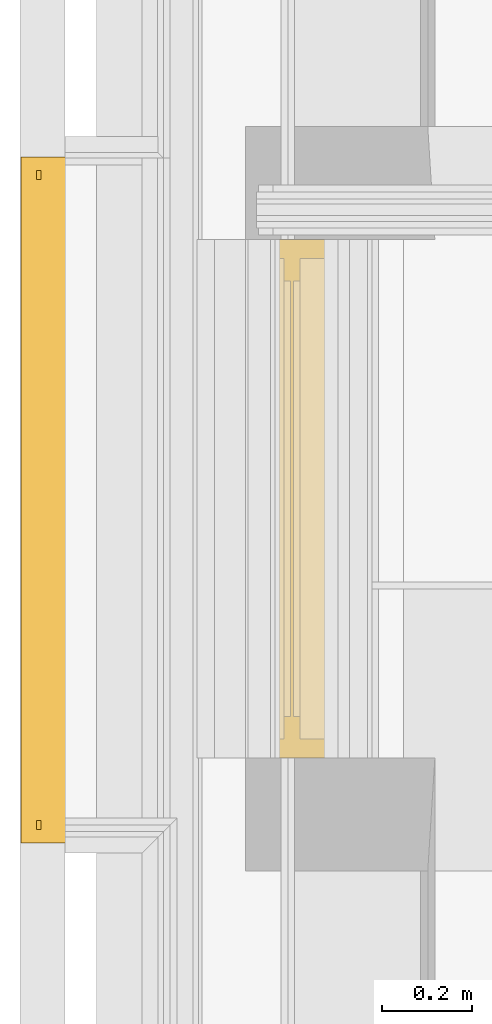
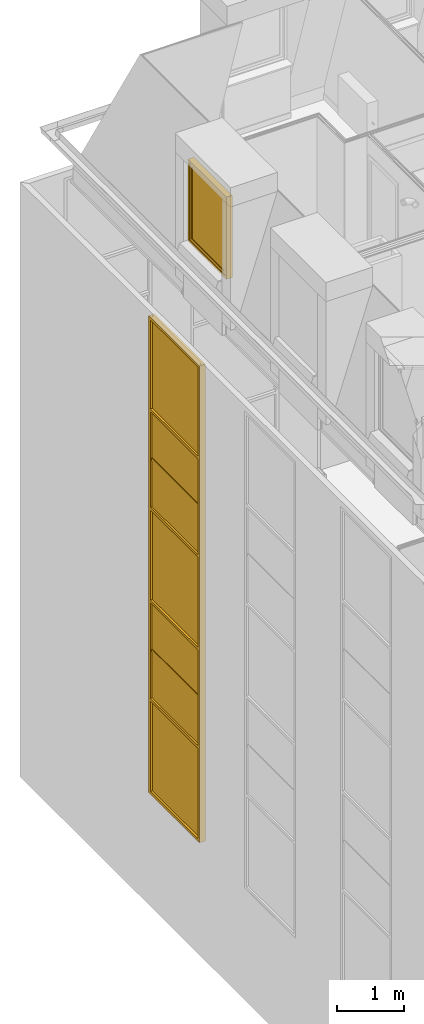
# One storey, part 107 of 169: 1 curtain wall, 1 window.
"""IFC2X3 building model written with IfcOpenShell, lengths in metres."""

from ifc_helpers import new_model, entity, si_unit, converted_unit, derived_unit, money_unit, direction, frame, origin_with_axes, place, context, subcontext, project, spatial, faceted_brep, material, type_object, element, save


model = new_model("IFC2X3")

# Units and contexts
model_context = context("Model", 3, precision=1e-05, world=origin_with_axes(), true_north=direction((0.0, 1.0)))
body_context = subcontext(model_context, "Body", "Model", "MODEL_VIEW", scale=1.0)
ifc_project = project(units=[si_unit("LENGTHUNIT", "METRE"), si_unit("AREAUNIT", "SQUARE_METRE"), si_unit("VOLUMEUNIT", "CUBIC_METRE"), si_unit("ABSORBEDDOSEUNIT", "GRAY"), si_unit("AMOUNTOFSUBSTANCEUNIT", "MOLE"), si_unit("DOSEEQUIVALENTUNIT", "SIEVERT"), si_unit("ELECTRICCAPACITANCEUNIT", "FARAD"), si_unit("ELECTRICCHARGEUNIT", "COULOMB"), si_unit("ELECTRICCONDUCTANCEUNIT", "SIEMENS"), si_unit("ELECTRICCURRENTUNIT", "AMPERE"), si_unit("ELECTRICRESISTANCEUNIT", "OHM"), si_unit("ELECTRICVOLTAGEUNIT", "VOLT"), si_unit("ENERGYUNIT", "JOULE"), si_unit("FORCEUNIT", "NEWTON"), si_unit("FREQUENCYUNIT", "HERTZ"), si_unit("ILLUMINANCEUNIT", "LUX"), si_unit("INDUCTANCEUNIT", "HENRY"), si_unit("LUMINOUSFLUXUNIT", "LUMEN"), si_unit("LUMINOUSINTENSITYUNIT", "CANDELA"), si_unit("MAGNETICFLUXDENSITYUNIT", "TESLA"), si_unit("MAGNETICFLUXUNIT", "WEBER"), si_unit("MASSUNIT", "GRAM"), converted_unit("PLANEANGLEUNIT", "degree", entity("IfcReal", 0.0174532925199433), si_unit("PLANEANGLEUNIT", "RADIAN"), dimensions=[0, 0, 0, 0, 0, 0, 0]), si_unit("POWERUNIT", "WATT"), si_unit("PRESSUREUNIT", "PASCAL"), si_unit("RADIOACTIVITYUNIT", "BECQUEREL"), si_unit("SOLIDANGLEUNIT", "STERADIAN"), si_unit("THERMODYNAMICTEMPERATUREUNIT", "KELVIN"), si_unit("TIMEUNIT", "SECOND"), derived_unit("ACCELERATIONUNIT", [(si_unit("LENGTHUNIT", "METRE"), 1), (si_unit("TIMEUNIT", "SECOND"), -2)]), derived_unit("ANGULARVELOCITYUNIT", [(converted_unit("PLANEANGLEUNIT", "degree", entity("IfcReal", 0.0174532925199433), si_unit("PLANEANGLEUNIT", "RADIAN"), dimensions=[0, 0, 0, 0, 0, 0, 0]), 1), (si_unit("TIMEUNIT", "SECOND"), -1)]), derived_unit("CURVATUREUNIT", [(converted_unit("PLANEANGLEUNIT", "degree", entity("IfcReal", 0.0174532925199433), si_unit("PLANEANGLEUNIT", "RADIAN"), dimensions=[0, 0, 0, 0, 0, 0, 0]), 1), (si_unit("LENGTHUNIT", "METRE"), -1)]), derived_unit("DYNAMICVISCOSITYUNIT", [(si_unit("PRESSUREUNIT", "PASCAL"), 1), (si_unit("TIMEUNIT", "SECOND"), 1)]), derived_unit("HEATFLUXDENSITYUNIT", [(si_unit("POWERUNIT", "WATT"), 1), (si_unit("LENGTHUNIT", "METRE"), -2)]), derived_unit("HEATINGVALUEUNIT", [(si_unit("ENERGYUNIT", "JOULE"), 1), (si_unit("MASSUNIT", "GRAM"), -1)]), derived_unit("INTEGERCOUNTRATEUNIT", [(si_unit("TIMEUNIT", "SECOND"), -1)]), derived_unit("IONCONCENTRATIONUNIT", [(si_unit("MASSUNIT", "GRAM"), 1), (si_unit("VOLUMEUNIT", "CUBIC_METRE"), -1)]), derived_unit("ISOTHERMALMOISTURECAPACITYUNIT", [(si_unit("VOLUMEUNIT", "CUBIC_METRE"), 1), (si_unit("MASSUNIT", "GRAM"), -1)]), derived_unit("KINEMATICVISCOSITYUNIT", [(si_unit("AREAUNIT", "SQUARE_METRE"), 1), (si_unit("TIMEUNIT", "SECOND"), -1)]), derived_unit("LINEARFORCEUNIT", [(si_unit("FORCEUNIT", "NEWTON"), 1), (si_unit("LENGTHUNIT", "METRE"), -1)]), derived_unit("LINEARMOMENTUNIT", [(si_unit("FORCEUNIT", "NEWTON"), 1), (si_unit("LENGTHUNIT", "METRE"), -1)]), derived_unit("LINEARSTIFFNESSUNIT", [(si_unit("FORCEUNIT", "NEWTON"), 1), (si_unit("LENGTHUNIT", "METRE"), -1)]), derived_unit("LINEARVELOCITYUNIT", [(si_unit("LENGTHUNIT", "METRE"), 1), (si_unit("TIMEUNIT", "SECOND"), -1)]), derived_unit("LUMINOUSINTENSITYDISTRIBUTIONUNIT", [(si_unit("LUMINOUSINTENSITYUNIT", "CANDELA"), 1), (si_unit("LUMINOUSFLUXUNIT", "LUMEN"), -1)]), derived_unit("MASSDENSITYUNIT", [(si_unit("MASSUNIT", "GRAM"), 1), (si_unit("VOLUMEUNIT", "CUBIC_METRE"), -1)]), derived_unit("MASSFLOWRATEUNIT", [(si_unit("MASSUNIT", "GRAM"), 1), (si_unit("TIMEUNIT", "SECOND"), -1)]), derived_unit("MASSPERLENGTHUNIT", [(si_unit("MASSUNIT", "GRAM"), 1), (si_unit("LENGTHUNIT", "METRE"), -1)]), derived_unit("MODULUSOFELASTICITYUNIT", [(si_unit("FORCEUNIT", "NEWTON"), 1), (si_unit("AREAUNIT", "SQUARE_METRE"), -1)]), derived_unit("MODULUSOFLINEARSUBGRADEREACTIONUNIT", [(si_unit("FORCEUNIT", "NEWTON"), 1), (si_unit("LENGTHUNIT", "METRE"), -2)]), derived_unit("MODULUSOFROTATIONALSUBGRADEREACTIONUNIT", [(si_unit("FORCEUNIT", "NEWTON"), 1), (si_unit("LENGTHUNIT", "METRE"), 1)]), derived_unit("MODULUSOFSUBGRADEREACTIONUNIT", [(si_unit("FORCEUNIT", "NEWTON"), 1), (si_unit("VOLUMEUNIT", "CUBIC_METRE"), -1)]), derived_unit("MOISTUREDIFFUSIVITYUNIT", [(si_unit("VOLUMEUNIT", "CUBIC_METRE"), 1), (si_unit("TIMEUNIT", "SECOND"), -1)]), derived_unit("MOLECULARWEIGHTUNIT", [(si_unit("MASSUNIT", "GRAM"), 1), (si_unit("AMOUNTOFSUBSTANCEUNIT", "MOLE"), -1)]), derived_unit("PLANARFORCEUNIT", [(si_unit("FORCEUNIT", "NEWTON"), 1), (si_unit("LENGTHUNIT", "METRE"), -2)]), derived_unit("ROTATIONALFREQUENCYUNIT", [(si_unit("TIMEUNIT", "SECOND"), -1)]), derived_unit("ROTATIONALMASSUNIT", [(si_unit("MASSUNIT", "GRAM"), 1), (si_unit("LENGTHUNIT", "METRE"), 2)]), derived_unit("ROTATIONALSTIFFNESSUNIT", [(si_unit("FORCEUNIT", "NEWTON"), 1), (si_unit("LENGTHUNIT", "METRE"), 1), (converted_unit("PLANEANGLEUNIT", "degree", entity("IfcReal", 0.0174532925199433), si_unit("PLANEANGLEUNIT", "RADIAN"), dimensions=[0, 0, 0, 0, 0, 0, 0]), -1)]), derived_unit("SECTIONAREAINTEGRALUNIT", [(si_unit("LENGTHUNIT", "METRE"), 5)]), derived_unit("SECTIONMODULUSUNIT", [(si_unit("LENGTHUNIT", "METRE"), 3)]), derived_unit("SHEARMODULUSUNIT", [(si_unit("FORCEUNIT", "NEWTON"), 1), (si_unit("AREAUNIT", "SQUARE_METRE"), -1)]), derived_unit("SOUNDPOWERUNIT", [(si_unit("ENERGYUNIT", "JOULE"), 1), (si_unit("TIMEUNIT", "SECOND"), -1)]), derived_unit("SPECIFICHEATCAPACITYUNIT", [(si_unit("FORCEUNIT", "NEWTON"), 1), (si_unit("MASSUNIT", "GRAM"), -1), (si_unit("THERMODYNAMICTEMPERATUREUNIT", "KELVIN"), -1)]), derived_unit("TEMPERATUREGRADIENTUNIT", [(si_unit("THERMODYNAMICTEMPERATUREUNIT", "KELVIN"), 1), (si_unit("LENGTHUNIT", "METRE"), -1)]), derived_unit("THERMALADMITTANCEUNIT", [(si_unit("POWERUNIT", "WATT"), 1), (si_unit("AREAUNIT", "SQUARE_METRE"), -1), (si_unit("THERMODYNAMICTEMPERATUREUNIT", "KELVIN"), -1)]), derived_unit("THERMALCONDUCTANCEUNIT", [(si_unit("POWERUNIT", "WATT"), 1), (si_unit("LENGTHUNIT", "METRE"), -1), (si_unit("THERMODYNAMICTEMPERATUREUNIT", "KELVIN"), -1)]), derived_unit("THERMALEXPANSIONCOEFFICIENTUNIT", [(si_unit("THERMODYNAMICTEMPERATUREUNIT", "KELVIN"), -1)]), derived_unit("THERMALRESISTANCEUNIT", [(si_unit("AREAUNIT", "SQUARE_METRE"), 1), (si_unit("POWERUNIT", "WATT"), -1)]), derived_unit("THERMALTRANSMITTANCEUNIT", [(si_unit("POWERUNIT", "WATT"), 1), (si_unit("AREAUNIT", "SQUARE_METRE"), -1), (si_unit("THERMODYNAMICTEMPERATUREUNIT", "KELVIN"), -1)]), derived_unit("TORQUEUNIT", [(si_unit("FORCEUNIT", "NEWTON"), 1), (si_unit("LENGTHUNIT", "METRE"), 1)]), derived_unit("VAPORPERMEABILITYUNIT", [(si_unit("MASSUNIT", "GRAM"), 1), (si_unit("TIMEUNIT", "SECOND"), -1)]), derived_unit("VOLUMETRICFLOWRATEUNIT", [(si_unit("VOLUMEUNIT", "CUBIC_METRE"), 1), (si_unit("TIMEUNIT", "SECOND"), -1)]), derived_unit("WARPINGCONSTANTUNIT", [(si_unit("LENGTHUNIT", "METRE"), 6)]), derived_unit("WARPINGMOMENTUNIT", [(si_unit("FORCEUNIT", "NEWTON"), 1), (si_unit("LENGTHUNIT", "METRE"), 2)]), money_unit("GBP")], contexts=[model_context])

# Site, building, storey
site_placement = place(None, origin_with_axes())
site = spatial("IfcSite", under=ifc_project, at=site_placement, Name="Site", CompositionType="ELEMENT")
building_placement = place(site_placement, origin_with_axes())
building = spatial("IfcBuilding", under=site, at=building_placement, Name="Building01", CompositionType="ELEMENT")
storey_placement = place(building_placement, frame((0.0, 0.0, 5.15), z_axis=(0.0, 0.0, 1.0), x_axis=(1.0, 0.0, 0.0)))
storey = spatial("IfcBuildingStorey", under=building, at=storey_placement, Name="1F", CompositionType="ELEMENT", Elevation=5.15)

# Curtain wall
ifc_material_1 = material(Name="A-CurtainWall_Frame")
curtain_wall_type = type_object("IfcCurtainWallType", Name="Pattern - Maximum Spacing", PredefinedType="NOTDEFINED")
curtain_wall_placement = place(storey_placement, frame((0.0, 0.0, -5.15), z_axis=(0.0, 0.0, 1.0), x_axis=(1.0, 0.0, 0.0)))
element("IfcCurtainWall", 1, at=curtain_wall_placement, inside=storey, type_object=curtain_wall_type, material=ifc_material_1, Name="13", ObjectType="Pattern - Maximum Spacing", context=body_context, shape_type="Brep", body=[
    faceted_brep([(0.047043, 11.02718, 7.729632), (0.037043, 11.02718, 7.729632), (0.037043, 9.56718, 7.729632), (0.047043, 9.56718, 7.729632), (0.047043, 11.02718, 6.045508), (0.037043, 11.02718, 6.045508), (0.047043, 9.56718, 6.045508), (0.037043, 9.56718, 6.045508)], [[[0, 1, 2, 3]], [[4, 5, 1, 0]], [[6, 7, 5, 4]], [[3, 2, 7, 6]], [[1, 5, 7, 2]], [[3, 6, 4, 0]]]),
    faceted_brep([(0.002043, 9.58718, 6.015508), (0.037043, 9.58718, 6.015508), (0.037043, 9.56718, 6.015508), (0.047043, 9.56718, 6.015508), (0.047043, 9.58718, 6.015508), (0.102043, 9.58718, 6.015508), (0.102043, 9.53718, 6.015508), (0.002043, 9.53718, 6.015508), (0.002043, 9.53718, 7.734632), (0.002043, 9.58718, 7.734632), (0.037043, 9.58718, 7.734632), (0.037043, 9.56718, 7.734632), (0.047043, 9.56718, 7.734632), (0.047043, 9.58718, 7.734632), (0.102043, 9.58718, 7.734632), (0.102043, 9.53718, 7.734632)], [[[0, 1, 2, 3, 4, 5, 6, 7]], [[7, 8, 9, 0]], [[0, 9, 10, 1]], [[1, 10, 11, 2]], [[2, 11, 12, 3]], [[3, 12, 13, 4]], [[4, 13, 14, 5]], [[5, 14, 15, 6]], [[6, 15, 8, 7]]]),
    faceted_brep([(0.002043, 11.00718, 6.065508), (0.037043, 11.00718, 6.065508), (0.037043, 11.00718, 6.045508), (0.047043, 11.00718, 6.045508), (0.047043, 11.00718, 6.065508), (0.102043, 11.00718, 6.065508), (0.102043, 11.00718, 6.015508), (0.002043, 11.00718, 6.015508), (0.002043, 9.58718, 6.015508), (0.002043, 9.58718, 6.065508), (0.037043, 9.58718, 6.065508), (0.037043, 9.58718, 6.045508), (0.047043, 9.58718, 6.045508), (0.047043, 9.58718, 6.065508), (0.102043, 9.58718, 6.065508), (0.102043, 9.58718, 6.015508)], [[[0, 1, 2, 3, 4, 5, 6, 7]], [[7, 8, 9, 0]], [[0, 9, 10, 1]], [[1, 10, 11, 2]], [[2, 11, 12, 3]], [[3, 12, 13, 4]], [[4, 13, 14, 5]], [[5, 14, 15, 6]], [[6, 15, 8, 7]], [[8, 15, 14, 13, 12, 11, 10, 9]]]),
    faceted_brep([(0.037043, 11.02718, 6.015508), (0.037043, 11.02718, 7.734632), (0.037043, 11.00718, 7.734632), (0.037043, 11.00718, 6.015508), (0.047043, 11.02718, 6.015508), (0.047043, 11.02718, 7.734632), (0.047043, 11.00718, 6.015508), (0.047043, 11.00718, 7.734632), (0.102043, 11.00718, 6.015508), (0.102043, 11.00718, 7.734632), (0.102043, 11.05718, 6.015508), (0.102043, 11.05718, 7.734632), (0.002043, 11.05718, 6.015508), (0.002043, 11.05718, 7.734632), (0.002043, 11.00718, 6.015508), (0.002043, 11.00718, 7.734632)], [[[0, 1, 2, 3]], [[4, 5, 1, 0]], [[6, 7, 5, 4]], [[8, 9, 7, 6]], [[10, 11, 9, 8]], [[12, 13, 11, 10]], [[14, 15, 13, 12]], [[3, 2, 15, 14]], [[14, 12, 10, 8, 6, 4, 0, 3]]]),
    faceted_brep([(0.047043, 9.58718, 7.739632), (0.037043, 9.58718, 7.739632), (0.037043, 9.58718, 7.759632), (0.002043, 9.58718, 7.759632), (0.002043, 9.58718, 7.709632), (0.037043, 9.58718, 7.709632), (0.037043, 9.58718, 7.729632), (0.047043, 9.58718, 7.729632), (0.047043, 9.58718, 7.709632), (0.102043, 9.58718, 7.709632), (0.102043, 9.58718, 7.759632), (0.047043, 9.58718, 7.759632), (0.047043, 11.00718, 7.759632), (0.047043, 11.00718, 7.739632), (0.037043, 11.00718, 7.739632), (0.037043, 11.00718, 7.759632), (0.002043, 11.00718, 7.759632), (0.002043, 11.00718, 7.709632), (0.037043, 11.00718, 7.709632), (0.047043, 11.00718, 7.729632), (0.047043, 11.00718, 7.709632), (0.037043, 11.00718, 7.729632), (0.102043, 11.00718, 7.759632), (0.102043, 11.00718, 7.709632)], [[[0, 1, 2, 3, 4, 5, 6, 7, 8, 9, 10, 11]], [[11, 12, 13, 0]], [[0, 13, 14, 1]], [[1, 14, 15, 2]], [[2, 15, 16, 3]], [[3, 16, 17, 4]], [[4, 17, 18, 5]], [[7, 19, 20, 8]], [[6, 21, 19, 7]], [[5, 18, 21, 6]], [[10, 22, 12, 11]], [[9, 23, 22, 10]], [[8, 20, 23, 9]], [[20, 19, 21, 18, 17, 16, 15, 14, 13, 12, 22, 23]]]),
    faceted_brep([(0.052043, 11.02718, 8.626522), (0.032043, 11.02718, 8.626522), (0.032043, 9.56718, 8.626522), (0.052043, 9.56718, 8.626522), (0.052043, 11.02718, 7.739632), (0.032043, 11.02718, 7.739632), (0.052043, 9.56718, 7.739632), (0.032043, 9.56718, 7.739632)], [[[0, 1, 2, 3]], [[4, 5, 1, 0]], [[6, 7, 5, 4]], [[3, 2, 7, 6]], [[1, 5, 7, 2]], [[3, 6, 4, 0]]]),
    faceted_brep([(0.102043, 9.53718, 8.631522), (0.102043, 9.53718, 7.734632), (0.102043, 9.58718, 7.734632), (0.102043, 9.58718, 8.631522), (0.002043, 9.53718, 8.631522), (0.002043, 9.53718, 7.734632), (0.002043, 9.58718, 8.631522), (0.002043, 9.58718, 7.734632), (0.037043, 9.58718, 8.631522), (0.037043, 9.58718, 7.734632), (0.037043, 9.56718, 8.631522), (0.037043, 9.56718, 7.734632), (0.047043, 9.56718, 8.631522), (0.047043, 9.56718, 7.734632), (0.047043, 9.58718, 8.631522), (0.047043, 9.58718, 7.734632)], [[[0, 1, 2, 3]], [[4, 5, 1, 0]], [[6, 7, 5, 4]], [[8, 9, 7, 6]], [[10, 11, 9, 8]], [[12, 13, 11, 10]], [[14, 15, 13, 12]], [[3, 2, 15, 14]]]),
    faceted_brep([(0.037043, 11.02718, 7.734632), (0.037043, 11.02718, 8.631522), (0.037043, 11.00718, 8.631522), (0.037043, 11.00718, 7.734632), (0.047043, 11.02718, 7.734632), (0.047043, 11.02718, 8.631522), (0.047043, 11.00718, 7.734632), (0.047043, 11.00718, 8.631522), (0.102043, 11.00718, 7.734632), (0.102043, 11.00718, 8.631522), (0.102043, 11.05718, 7.734632), (0.102043, 11.05718, 8.631522), (0.002043, 11.05718, 7.734632), (0.002043, 11.05718, 8.631522), (0.002043, 11.00718, 7.734632), (0.002043, 11.00718, 8.631522)], [[[0, 1, 2, 3]], [[4, 5, 1, 0]], [[6, 7, 5, 4]], [[8, 9, 7, 6]], [[10, 11, 9, 8]], [[12, 13, 11, 10]], [[14, 15, 13, 12]], [[3, 2, 15, 14]]]),
    faceted_brep([(0.064543, 9.58718, 8.636522), (0.054543, 9.58718, 8.636522), (0.054543, 9.58718, 8.656522), (0.019543, 9.58718, 8.656522), (0.019543, 9.58718, 8.606522), (0.054543, 9.58718, 8.606522), (0.054543, 9.58718, 8.626522), (0.064543, 9.58718, 8.626522), (0.064543, 9.58718, 8.606522), (0.119543, 9.58718, 8.606522), (0.119543, 9.58718, 8.656522), (0.064543, 9.58718, 8.656522), (0.064543, 11.00718, 8.656522), (0.064543, 11.00718, 8.636522), (0.054543, 11.00718, 8.636522), (0.054543, 11.00718, 8.656522), (0.019543, 11.00718, 8.656522), (0.019543, 11.00718, 8.606522), (0.054543, 11.00718, 8.606522), (0.064543, 11.00718, 8.626522), (0.064543, 11.00718, 8.606522), (0.054543, 11.00718, 8.626522), (0.119543, 11.00718, 8.656522), (0.119543, 11.00718, 8.606522)], [[[0, 1, 2, 3, 4, 5, 6, 7, 8, 9, 10, 11]], [[11, 12, 13, 0]], [[0, 13, 14, 1]], [[1, 14, 15, 2]], [[2, 15, 16, 3]], [[3, 16, 17, 4]], [[4, 17, 18, 5]], [[7, 19, 20, 8]], [[6, 21, 19, 7]], [[5, 18, 21, 6]], [[10, 22, 12, 11]], [[9, 23, 22, 10]], [[8, 20, 23, 9]], [[20, 19, 21, 18, 17, 16, 15, 14, 13, 12, 22, 23]]]),
    faceted_brep([(0.052043, 11.02718, 9.523411), (0.032043, 11.02718, 9.523411), (0.032043, 9.56718, 9.523411), (0.052043, 9.56718, 9.523411), (0.052043, 11.02718, 8.636522), (0.032043, 11.02718, 8.636522), (0.052043, 9.56718, 8.636522), (0.032043, 9.56718, 8.636522)], [[[0, 1, 2, 3]], [[4, 5, 1, 0]], [[6, 7, 5, 4]], [[3, 2, 7, 6]], [[1, 5, 7, 2]], [[3, 6, 4, 0]]]),
    faceted_brep([(0.102043, 9.53718, 9.528411), (0.102043, 9.53718, 8.631522), (0.102043, 9.58718, 8.631522), (0.102043, 9.58718, 9.528411), (0.002043, 9.53718, 9.528411), (0.002043, 9.53718, 8.631522), (0.002043, 9.58718, 9.528411), (0.002043, 9.58718, 8.631522), (0.037043, 9.58718, 9.528411), (0.037043, 9.58718, 8.631522), (0.037043, 9.56718, 9.528411), (0.037043, 9.56718, 8.631522), (0.047043, 9.56718, 9.528411), (0.047043, 9.56718, 8.631522), (0.047043, 9.58718, 9.528411), (0.047043, 9.58718, 8.631522)], [[[0, 1, 2, 3]], [[4, 5, 1, 0]], [[6, 7, 5, 4]], [[8, 9, 7, 6]], [[10, 11, 9, 8]], [[12, 13, 11, 10]], [[14, 15, 13, 12]], [[3, 2, 15, 14]]]),
    faceted_brep([(0.037043, 11.02718, 8.631522), (0.037043, 11.02718, 9.528411), (0.037043, 11.00718, 9.528411), (0.037043, 11.00718, 8.631522), (0.047043, 11.02718, 8.631522), (0.047043, 11.02718, 9.528411), (0.047043, 11.00718, 8.631522), (0.047043, 11.00718, 9.528411), (0.102043, 11.00718, 8.631522), (0.102043, 11.00718, 9.528411), (0.102043, 11.05718, 8.631522), (0.102043, 11.05718, 9.528411), (0.002043, 11.05718, 8.631522), (0.002043, 11.05718, 9.528411), (0.002043, 11.00718, 8.631522), (0.002043, 11.00718, 9.528411)], [[[0, 1, 2, 3]], [[4, 5, 1, 0]], [[6, 7, 5, 4]], [[8, 9, 7, 6]], [[10, 11, 9, 8]], [[12, 13, 11, 10]], [[14, 15, 13, 12]], [[3, 2, 15, 14]]]),
    faceted_brep([(0.047043, 9.58718, 9.533411), (0.037043, 9.58718, 9.533411), (0.037043, 9.58718, 9.553411), (0.002043, 9.58718, 9.553411), (0.002043, 9.58718, 9.503411), (0.037043, 9.58718, 9.503411), (0.037043, 9.58718, 9.523411), (0.047043, 9.58718, 9.523411), (0.047043, 9.58718, 9.503411), (0.102043, 9.58718, 9.503411), (0.102043, 9.58718, 9.553411), (0.047043, 9.58718, 9.553411), (0.047043, 11.00718, 9.553411), (0.047043, 11.00718, 9.533411), (0.037043, 11.00718, 9.533411), (0.037043, 11.00718, 9.553411), (0.002043, 11.00718, 9.553411), (0.002043, 11.00718, 9.503411), (0.037043, 11.00718, 9.503411), (0.047043, 11.00718, 9.523411), (0.047043, 11.00718, 9.503411), (0.037043, 11.00718, 9.523411), (0.102043, 11.00718, 9.553411), (0.102043, 11.00718, 9.503411)], [[[0, 1, 2, 3, 4, 5, 6, 7, 8, 9, 10, 11]], [[11, 12, 13, 0]], [[0, 13, 14, 1]], [[1, 14, 15, 2]], [[2, 15, 16, 3]], [[3, 16, 17, 4]], [[4, 17, 18, 5]], [[7, 19, 20, 8]], [[6, 21, 19, 7]], [[5, 18, 21, 6]], [[10, 22, 12, 11]], [[9, 23, 22, 10]], [[8, 20, 23, 9]], [[20, 19, 21, 18, 17, 16, 15, 14, 13, 12, 22, 23]]]),
    faceted_brep([(0.047043, 11.02718, 11.217536), (0.037043, 11.02718, 11.217536), (0.037043, 9.56718, 11.217536), (0.047043, 9.56718, 11.217536), (0.047043, 11.02718, 9.533411), (0.037043, 11.02718, 9.533411), (0.047043, 9.56718, 9.533411), (0.037043, 9.56718, 9.533411)], [[[0, 1, 2, 3]], [[4, 5, 1, 0]], [[6, 7, 5, 4]], [[3, 2, 7, 6]], [[1, 5, 7, 2]], [[3, 6, 4, 0]]]),
    faceted_brep([(0.102043, 9.53718, 11.222536), (0.102043, 9.53718, 9.528411), (0.102043, 9.58718, 9.528411), (0.102043, 9.58718, 11.222536), (0.002043, 9.53718, 11.222536), (0.002043, 9.53718, 9.528411), (0.002043, 9.58718, 11.222536), (0.002043, 9.58718, 9.528411), (0.037043, 9.58718, 11.222536), (0.037043, 9.58718, 9.528411), (0.037043, 9.56718, 11.222536), (0.037043, 9.56718, 9.528411), (0.047043, 9.56718, 11.222536), (0.047043, 9.56718, 9.528411), (0.047043, 9.58718, 11.222536), (0.047043, 9.58718, 9.528411)], [[[0, 1, 2, 3]], [[4, 5, 1, 0]], [[6, 7, 5, 4]], [[8, 9, 7, 6]], [[10, 11, 9, 8]], [[12, 13, 11, 10]], [[14, 15, 13, 12]], [[3, 2, 15, 14]]]),
    faceted_brep([(0.037043, 11.02718, 9.528411), (0.037043, 11.02718, 11.222536), (0.037043, 11.00718, 11.222536), (0.037043, 11.00718, 9.528411), (0.047043, 11.02718, 9.528411), (0.047043, 11.02718, 11.222536), (0.047043, 11.00718, 9.528411), (0.047043, 11.00718, 11.222536), (0.102043, 11.00718, 9.528411), (0.102043, 11.00718, 11.222536), (0.102043, 11.05718, 9.528411), (0.102043, 11.05718, 11.222536), (0.002043, 11.05718, 9.528411), (0.002043, 11.05718, 11.222536), (0.002043, 11.00718, 9.528411), (0.002043, 11.00718, 11.222536)], [[[0, 1, 2, 3]], [[4, 5, 1, 0]], [[6, 7, 5, 4]], [[8, 9, 7, 6]], [[10, 11, 9, 8]], [[12, 13, 11, 10]], [[14, 15, 13, 12]], [[3, 2, 15, 14]]]),
    faceted_brep([(0.047043, 9.58718, 11.227536), (0.037043, 9.58718, 11.227536), (0.037043, 9.58718, 11.247536), (0.002043, 9.58718, 11.247536), (0.002043, 9.58718, 11.197536), (0.037043, 9.58718, 11.197536), (0.037043, 9.58718, 11.217536), (0.047043, 9.58718, 11.217536), (0.047043, 9.58718, 11.197536), (0.102043, 9.58718, 11.197536), (0.102043, 9.58718, 11.247536), (0.047043, 9.58718, 11.247536), (0.047043, 11.00718, 11.247536), (0.047043, 11.00718, 11.227536), (0.037043, 11.00718, 11.227536), (0.037043, 11.00718, 11.247536), (0.002043, 11.00718, 11.247536), (0.002043, 11.00718, 11.197536), (0.037043, 11.00718, 11.197536), (0.047043, 11.00718, 11.217536), (0.047043, 11.00718, 11.197536), (0.037043, 11.00718, 11.217536), (0.102043, 11.00718, 11.247536), (0.102043, 11.00718, 11.197536)], [[[0, 1, 2, 3, 4, 5, 6, 7, 8, 9, 10, 11]], [[11, 12, 13, 0]], [[0, 13, 14, 1]], [[1, 14, 15, 2]], [[2, 15, 16, 3]], [[3, 16, 17, 4]], [[4, 17, 18, 5]], [[7, 19, 20, 8]], [[6, 21, 19, 7]], [[5, 18, 21, 6]], [[10, 22, 12, 11]], [[9, 23, 22, 10]], [[8, 20, 23, 9]], [[20, 19, 21, 18, 17, 16, 15, 14, 13, 12, 22, 23]]]),
    faceted_brep([(0.052043, 11.02718, 12.114425), (0.032043, 11.02718, 12.114425), (0.032043, 9.56718, 12.114425), (0.052043, 9.56718, 12.114425), (0.052043, 11.02718, 11.227536), (0.032043, 11.02718, 11.227536), (0.052043, 9.56718, 11.227536), (0.032043, 9.56718, 11.227536)], [[[0, 1, 2, 3]], [[4, 5, 1, 0]], [[6, 7, 5, 4]], [[3, 2, 7, 6]], [[1, 5, 7, 2]], [[3, 6, 4, 0]]]),
    faceted_brep([(0.102043, 9.53718, 12.119425), (0.102043, 9.53718, 11.222536), (0.102043, 9.58718, 11.222536), (0.102043, 9.58718, 12.119425), (0.002043, 9.53718, 12.119425), (0.002043, 9.53718, 11.222536), (0.002043, 9.58718, 12.119425), (0.002043, 9.58718, 11.222536), (0.037043, 9.58718, 12.119425), (0.037043, 9.58718, 11.222536), (0.037043, 9.56718, 12.119425), (0.037043, 9.56718, 11.222536), (0.047043, 9.56718, 12.119425), (0.047043, 9.56718, 11.222536), (0.047043, 9.58718, 12.119425), (0.047043, 9.58718, 11.222536)], [[[0, 1, 2, 3]], [[4, 5, 1, 0]], [[6, 7, 5, 4]], [[8, 9, 7, 6]], [[10, 11, 9, 8]], [[12, 13, 11, 10]], [[14, 15, 13, 12]], [[3, 2, 15, 14]]]),
    faceted_brep([(0.037043, 11.02718, 11.222536), (0.037043, 11.02718, 12.119425), (0.037043, 11.00718, 12.119425), (0.037043, 11.00718, 11.222536), (0.047043, 11.02718, 11.222536), (0.047043, 11.02718, 12.119425), (0.047043, 11.00718, 11.222536), (0.047043, 11.00718, 12.119425), (0.102043, 11.00718, 11.222536), (0.102043, 11.00718, 12.119425), (0.102043, 11.05718, 11.222536), (0.102043, 11.05718, 12.119425), (0.002043, 11.05718, 11.222536), (0.002043, 11.05718, 12.119425), (0.002043, 11.00718, 11.222536), (0.002043, 11.00718, 12.119425)], [[[0, 1, 2, 3]], [[4, 5, 1, 0]], [[6, 7, 5, 4]], [[8, 9, 7, 6]], [[10, 11, 9, 8]], [[12, 13, 11, 10]], [[14, 15, 13, 12]], [[3, 2, 15, 14]]]),
    faceted_brep([(0.064543, 9.58718, 12.124425), (0.054543, 9.58718, 12.124425), (0.054543, 9.58718, 12.144425), (0.019543, 9.58718, 12.144425), (0.019543, 9.58718, 12.094425), (0.054543, 9.58718, 12.094425), (0.054543, 9.58718, 12.114425), (0.064543, 9.58718, 12.114425), (0.064543, 9.58718, 12.094425), (0.119543, 9.58718, 12.094425), (0.119543, 9.58718, 12.144425), (0.064543, 9.58718, 12.144425), (0.064543, 11.00718, 12.144425), (0.064543, 11.00718, 12.124425), (0.054543, 11.00718, 12.124425), (0.054543, 11.00718, 12.144425), (0.019543, 11.00718, 12.144425), (0.019543, 11.00718, 12.094425), (0.054543, 11.00718, 12.094425), (0.064543, 11.00718, 12.114425), (0.064543, 11.00718, 12.094425), (0.054543, 11.00718, 12.114425), (0.119543, 11.00718, 12.144425), (0.119543, 11.00718, 12.094425)], [[[0, 1, 2, 3, 4, 5, 6, 7, 8, 9, 10, 11]], [[11, 12, 13, 0]], [[0, 13, 14, 1]], [[1, 14, 15, 2]], [[2, 15, 16, 3]], [[3, 16, 17, 4]], [[4, 17, 18, 5]], [[7, 19, 20, 8]], [[6, 21, 19, 7]], [[5, 18, 21, 6]], [[10, 22, 12, 11]], [[9, 23, 22, 10]], [[8, 20, 23, 9]], [[20, 19, 21, 18, 17, 16, 15, 14, 13, 12, 22, 23]]]),
    faceted_brep([(0.047043, 9.56718, 13.021314), (0.037043, 9.56718, 13.021314), (0.037043, 11.02718, 13.021314), (0.047043, 11.02718, 13.021314), (0.047043, 9.56718, 14.685508), (0.037043, 9.56718, 14.685508), (0.047043, 11.02718, 14.685508), (0.037043, 11.02718, 14.685508)], [[[0, 1, 2, 3]], [[4, 5, 1, 0]], [[6, 7, 5, 4]], [[3, 2, 7, 6]], [[1, 5, 7, 2]], [[3, 6, 4, 0]]]),
    faceted_brep([(0.037043, 11.02718, 14.715508), (0.047043, 11.02718, 14.715508), (0.047043, 11.00718, 14.715508), (0.102043, 11.00718, 14.715508), (0.102043, 11.05718, 14.715508), (0.002043, 11.05718, 14.715508), (0.002043, 11.00718, 14.715508), (0.037043, 11.00718, 14.715508), (0.037043, 11.00718, 13.016314), (0.037043, 11.02718, 13.016314), (0.047043, 11.02718, 13.016314), (0.047043, 11.00718, 13.016314), (0.102043, 11.00718, 13.016314), (0.102043, 11.05718, 13.016314), (0.002043, 11.05718, 13.016314), (0.002043, 11.00718, 13.016314)], [[[0, 1, 2, 3, 4, 5, 6, 7]], [[7, 8, 9, 0]], [[0, 9, 10, 1]], [[1, 10, 11, 2]], [[2, 11, 12, 3]], [[3, 12, 13, 4]], [[4, 13, 14, 5]], [[5, 14, 15, 6]], [[6, 15, 8, 7]]]),
    faceted_brep([(0.037043, 9.58718, 14.685508), (0.047043, 9.58718, 14.685508), (0.047043, 9.58718, 14.665508), (0.102043, 9.58718, 14.665508), (0.102043, 9.58718, 14.715508), (0.002043, 9.58718, 14.715508), (0.002043, 9.58718, 14.665508), (0.037043, 9.58718, 14.665508), (0.037043, 11.00718, 14.665508), (0.037043, 11.00718, 14.685508), (0.047043, 11.00718, 14.685508), (0.047043, 11.00718, 14.665508), (0.102043, 11.00718, 14.665508), (0.102043, 11.00718, 14.715508), (0.002043, 11.00718, 14.715508), (0.002043, 11.00718, 14.665508)], [[[0, 1, 2, 3, 4, 5, 6, 7]], [[7, 8, 9, 0]], [[0, 9, 10, 1]], [[1, 10, 11, 2]], [[2, 11, 12, 3]], [[3, 12, 13, 4]], [[4, 13, 14, 5]], [[5, 14, 15, 6]], [[6, 15, 8, 7]], [[8, 15, 14, 13, 12, 11, 10, 9]]]),
    faceted_brep([(0.002043, 9.58718, 14.715508), (0.002043, 9.58718, 13.016314), (0.002043, 9.53718, 13.016314), (0.002043, 9.53718, 14.715508), (0.037043, 9.58718, 14.715508), (0.037043, 9.58718, 13.016314), (0.037043, 9.56718, 14.715508), (0.037043, 9.56718, 13.016314), (0.047043, 9.56718, 14.715508), (0.047043, 9.56718, 13.016314), (0.047043, 9.58718, 14.715508), (0.047043, 9.58718, 13.016314), (0.102043, 9.58718, 14.715508), (0.102043, 9.58718, 13.016314), (0.102043, 9.53718, 14.715508), (0.102043, 9.53718, 13.016314)], [[[0, 1, 2, 3]], [[4, 5, 1, 0]], [[6, 7, 5, 4]], [[8, 9, 7, 6]], [[10, 11, 9, 8]], [[12, 13, 11, 10]], [[14, 15, 13, 12]], [[3, 2, 15, 14]], [[14, 12, 10, 8, 6, 4, 0, 3]]]),
    faceted_brep([(0.037043, 11.00718, 13.021314), (0.047043, 11.00718, 13.021314), (0.047043, 11.00718, 13.041314), (0.102043, 11.00718, 13.041314), (0.102043, 11.00718, 12.991314), (0.047043, 11.00718, 12.991314), (0.047043, 11.00718, 13.011314), (0.037043, 11.00718, 13.011314), (0.037043, 11.00718, 12.991314), (0.002043, 11.00718, 12.991314), (0.002043, 11.00718, 13.041314), (0.037043, 11.00718, 13.041314), (0.037043, 9.58718, 13.041314), (0.037043, 9.58718, 13.021314), (0.047043, 9.58718, 13.021314), (0.047043, 9.58718, 13.041314), (0.102043, 9.58718, 13.041314), (0.102043, 9.58718, 12.991314), (0.047043, 9.58718, 12.991314), (0.037043, 9.58718, 13.011314), (0.037043, 9.58718, 12.991314), (0.047043, 9.58718, 13.011314), (0.002043, 9.58718, 13.041314), (0.002043, 9.58718, 12.991314)], [[[0, 1, 2, 3, 4, 5, 6, 7, 8, 9, 10, 11]], [[11, 12, 13, 0]], [[0, 13, 14, 1]], [[1, 14, 15, 2]], [[2, 15, 16, 3]], [[3, 16, 17, 4]], [[4, 17, 18, 5]], [[7, 19, 20, 8]], [[6, 21, 19, 7]], [[5, 18, 21, 6]], [[10, 22, 12, 11]], [[9, 23, 22, 10]], [[8, 20, 23, 9]], [[20, 19, 21, 18, 17, 16, 15, 14, 13, 12, 22, 23]]]),
    faceted_brep([(0.052043, 11.02718, 13.011314), (0.032043, 11.02718, 13.011314), (0.032043, 9.56718, 13.011314), (0.052043, 9.56718, 13.011314), (0.052043, 11.02718, 12.124425), (0.032043, 11.02718, 12.124425), (0.052043, 9.56718, 12.124425), (0.032043, 9.56718, 12.124425)], [[[0, 1, 2, 3]], [[4, 5, 1, 0]], [[6, 7, 5, 4]], [[3, 2, 7, 6]], [[1, 5, 7, 2]], [[3, 6, 4, 0]]]),
    faceted_brep([(0.102043, 9.53718, 13.016314), (0.102043, 9.53718, 12.119425), (0.102043, 9.58718, 12.119425), (0.102043, 9.58718, 13.016314), (0.002043, 9.53718, 13.016314), (0.002043, 9.53718, 12.119425), (0.002043, 9.58718, 13.016314), (0.002043, 9.58718, 12.119425), (0.037043, 9.58718, 13.016314), (0.037043, 9.58718, 12.119425), (0.037043, 9.56718, 13.016314), (0.037043, 9.56718, 12.119425), (0.047043, 9.56718, 13.016314), (0.047043, 9.56718, 12.119425), (0.047043, 9.58718, 13.016314), (0.047043, 9.58718, 12.119425)], [[[0, 1, 2, 3]], [[4, 5, 1, 0]], [[6, 7, 5, 4]], [[8, 9, 7, 6]], [[10, 11, 9, 8]], [[12, 13, 11, 10]], [[14, 15, 13, 12]], [[3, 2, 15, 14]]]),
    faceted_brep([(0.037043, 11.02718, 12.119425), (0.037043, 11.02718, 13.016314), (0.037043, 11.00718, 13.016314), (0.037043, 11.00718, 12.119425), (0.047043, 11.02718, 12.119425), (0.047043, 11.02718, 13.016314), (0.047043, 11.00718, 12.119425), (0.047043, 11.00718, 13.016314), (0.102043, 11.00718, 12.119425), (0.102043, 11.00718, 13.016314), (0.102043, 11.05718, 12.119425), (0.102043, 11.05718, 13.016314), (0.002043, 11.05718, 12.119425), (0.002043, 11.05718, 13.016314), (0.002043, 11.00718, 12.119425), (0.002043, 11.00718, 13.016314)], [[[0, 1, 2, 3]], [[4, 5, 1, 0]], [[6, 7, 5, 4]], [[8, 9, 7, 6]], [[10, 11, 9, 8]], [[12, 13, 11, 10]], [[14, 15, 13, 12]], [[3, 2, 15, 14]]]),
])

# Space
space_placement = place(storey_placement, frame((1.009939, 13.890379, 9.86), z_axis=(0.0, 0.0, 1.0), x_axis=(0.0, -1.0, 0.0)))
space = spatial("IfcSpace", under=storey, at=space_placement, Name="26", CompositionType="ELEMENT", InteriorOrExteriorSpace="NOTDEFINED")

# Window
ifc_material_2 = material(Name="A_BSUK_Windows")
window_style = type_object("IfcWindowStyle", Name="A-Awning", ConstructionType="NOTDEFINED", OperationType="USERDEFINED", ParameterTakesPrecedence=False, Sizeable=False)
window_placement = place(storey_placement, frame((0.549939, 9.724915, 10.83), z_axis=(0.0, 0.0, 1.0), x_axis=(0.0, -1.0, 0.0)))
element("IfcWindow", 2, at=window_placement, inside=space, type_object=window_style, material=ifc_material_2, Name="4.13", ObjectType="A-Awning", OverallHeight=1.50000000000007, OverallWidth=1.15000000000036, context=body_context, shape_type="Brep", body=[
    faceted_brep([(-1.108, 0.0254, 0.042), (-0.042, 0.0254, 0.042), (-0.042, 0.1254, 0.042), (-1.108, 0.1254, 0.042), (-1.108, 0.0254, 1.458), (-1.108, 0.1254, 1.458), (-0.042, 0.0254, 1.458), (-0.042, 0.1254, 1.458), (0.0, 0.0254, 0.0), (0.0, 0.0254, 1.5), (-1.15, 0.0254, 1.5), (-1.15, 0.0254, 0.0), (0.0, 0.1254, 1.5), (-1.15, 0.1254, 1.5), (-1.15, 0.1254, 0.0), (0.0, 0.1254, 0.0)], [[[0, 1, 2, 3]], [[4, 0, 3, 5]], [[6, 4, 5, 7]], [[8, 9, 10, 11], [4, 6, 1, 0]], [[1, 6, 7, 2]], [[12, 13, 10, 9]], [[14, 15, 8, 11]], [[13, 14, 11, 10]], [[13, 12, 15, 14], [2, 7, 5, 3]], [[15, 12, 9, 8]]]),
    faceted_brep([(-1.0572, 0.0354, 0.0928), (-0.0928, 0.0354, 0.0928), (-0.0928, 0.0704, 0.0928), (-1.0572, 0.0704, 0.0928), (-1.0572, 0.0354, 1.4072), (-1.0572, 0.0704, 1.4072), (-0.0928, 0.0354, 1.4072), (-0.0928, 0.0704, 1.4072), (-1.108, 0.0704, 1.458), (-0.042, 0.0704, 1.458), (-0.042, 0.0704, 0.042), (-1.108, 0.0704, 0.042), (-1.108, 0.0354, 1.458), (-0.042, 0.0354, 1.458), (-0.042, 0.0354, 0.042), (-1.108, 0.0354, 0.042)], [[[0, 1, 2, 3]], [[4, 0, 3, 5]], [[6, 4, 5, 7]], [[8, 9, 10, 11], [2, 7, 5, 3]], [[9, 8, 12, 13]], [[10, 9, 13, 14]], [[11, 10, 14, 15]], [[8, 11, 15, 12]], [[14, 13, 12, 15], [4, 6, 1, 0]], [[1, 6, 7, 2]]]),
    faceted_brep([(-0.0928, 0.049725, 0.0928), (-0.0928, 0.056075, 0.0928), (-0.0928, 0.056075, 1.4072), (-0.0928, 0.049725, 1.4072), (-1.0572, 0.049725, 1.4072), (-1.0572, 0.056075, 1.4072), (-1.0572, 0.056075, 0.0928), (-1.0572, 0.049725, 0.0928)], [[[0, 1, 2, 3]], [[4, 5, 6, 7]], [[3, 2, 5, 4]], [[3, 4, 7, 0]], [[7, 6, 1, 0]], [[1, 6, 5, 2]]]),
])

save(model, "model.ifc")
